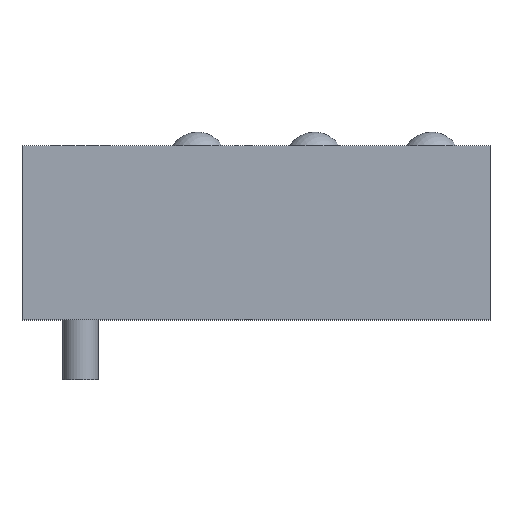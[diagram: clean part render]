
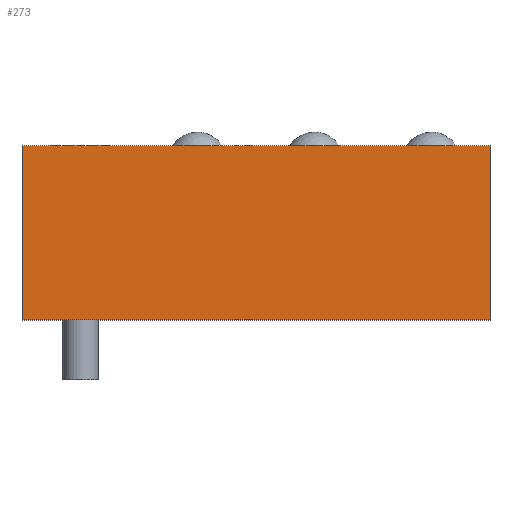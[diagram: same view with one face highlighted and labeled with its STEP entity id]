
A CAD part, top view. The second image highlights one B-rep face of the part: STEP entity #273.
In plain terms, the highlighted planar face has unit normal (0, 0, 1).
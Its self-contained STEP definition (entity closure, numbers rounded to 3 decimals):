
#25=LINE('',#438,#41);
#29=LINE('',#449,#45);
#36=LINE('',#466,#52);
#37=LINE('',#468,#53);
#41=VECTOR('',#367,10.);
#45=VECTOR('',#375,10.);
#52=VECTOR('',#396,10.);
#53=VECTOR('',#399,10.);
#81=FACE_OUTER_BOUND('',#105,.T.);
#105=EDGE_LOOP('',(#223,#224,#225,#226));
#130=VERTEX_POINT('',#435);
#131=VERTEX_POINT('',#437);
#135=VERTEX_POINT('',#446);
#136=VERTEX_POINT('',#448);
#153=EDGE_CURVE('',#131,#130,#25,.T.);
#158=EDGE_CURVE('',#136,#135,#29,.T.);
#167=EDGE_CURVE('',#130,#136,#36,.T.);
#168=EDGE_CURVE('',#135,#131,#37,.T.);
#223=ORIENTED_EDGE('',*,*,#158,.T.);
#224=ORIENTED_EDGE('',*,*,#168,.T.);
#225=ORIENTED_EDGE('',*,*,#153,.T.);
#226=ORIENTED_EDGE('',*,*,#167,.T.);
#236=PLANE('',#323);
#273=ADVANCED_FACE('',(#81),#236,.T.);
#323=AXIS2_PLACEMENT_3D('',#469,#400,#401);
#367=DIRECTION('',(-1.,0.,0.));
#375=DIRECTION('',(1.,0.,0.));
#396=DIRECTION('',(0.,-1.,0.));
#399=DIRECTION('',(0.,1.,0.));
#400=DIRECTION('center_axis',(0.,0.,1.));
#401=DIRECTION('ref_axis',(1.,0.,0.));
#435=CARTESIAN_POINT('',(-40.,14.9,8.9));
#437=CARTESIAN_POINT('',(40.,14.9,8.9));
#438=CARTESIAN_POINT('',(40.,14.9,8.9));
#446=CARTESIAN_POINT('',(40.,-14.9,8.9));
#448=CARTESIAN_POINT('',(-40.,-14.9,8.9));
#449=CARTESIAN_POINT('',(-40.,-14.9,8.9));
#466=CARTESIAN_POINT('',(-40.,14.9,8.9));
#468=CARTESIAN_POINT('',(40.,-14.9,8.9));
#469=CARTESIAN_POINT('Origin',(0.,0.,
8.9));
